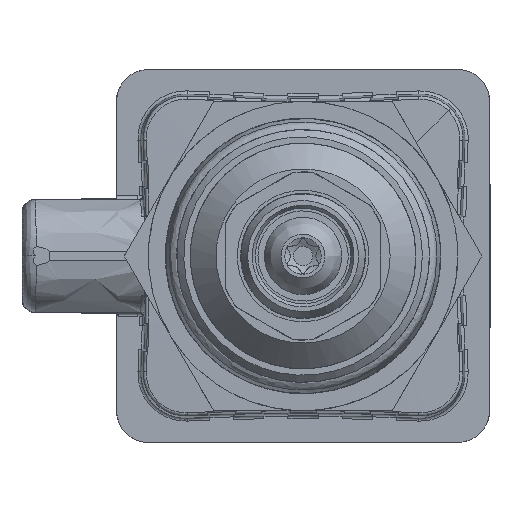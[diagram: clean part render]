
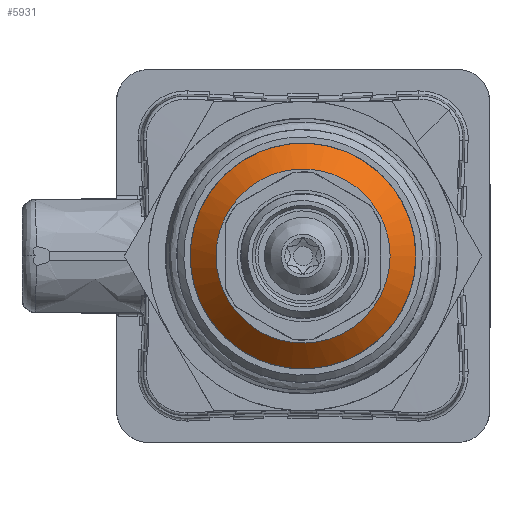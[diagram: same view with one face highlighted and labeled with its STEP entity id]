
A CAD part, front view. The second image highlights one B-rep face of the part: STEP entity #5931.
In plain terms, the highlighted free-form (B-spline) face has degree [2, 1] with [7, 2] control points.
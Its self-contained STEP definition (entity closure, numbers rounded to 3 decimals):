
#5833=CARTESIAN_POINT('V126',(6.75,-29.3,
   0.0));
#5834=VERTEX_POINT('V126',#5833);
#5835=CARTESIAN_POINT('E198',(6.75,-29.3,
   0.0));
#5836=CARTESIAN_POINT('E198',(6.75,-29.3,
   -11.691));
#5837=CARTESIAN_POINT('E198',(-3.375,-29.3,
   -5.846));
#5838=CARTESIAN_POINT('E198',(-13.5,
   -29.3,0.));
#5839=CARTESIAN_POINT('E198',(-3.375,-29.3,
   5.846));
#5840=CARTESIAN_POINT('E198',(6.75,-29.3,
   11.691));
#5841=CARTESIAN_POINT('E198',(6.75,-29.3,
   0.0));
#5849=(BOUNDED_CURVE()B_SPLINE_CURVE(2,(#5835,#5836,#5837,#5838,
   #5839,#5840,#5841),.CIRCULAR_ARC.,.T.,.U.)
   B_SPLINE_CURVE_WITH_KNOTS((3,2,2,3),(0.0,9.492,
   18.984,28.475),.UNSPECIFIED.)CURVE()
   GEOMETRIC_REPRESENTATION_ITEM()RATIONAL_B_SPLINE_CURVE((1.0,
   0.5,1.0,0.5,1.0,0.5,1.0)
   )REPRESENTATION_ITEM('E198'));
#5850=EDGE_CURVE('E198',#5834,#5834,#5849,.T.);
#5881=CARTESIAN_POINT('F85',(6.75,-29.3,
   0.0));
#5882=CARTESIAN_POINT('F85',(6.75,-29.3,
   -11.691));
#5883=CARTESIAN_POINT('F85',(-3.375,-29.3,
   -5.846));
#5884=CARTESIAN_POINT('F85',(-13.5,-29.3,
   0.));
#5885=CARTESIAN_POINT('F85',(-3.375,-29.3,
   5.846));
#5886=CARTESIAN_POINT('F85',(6.75,-29.3,
   11.691));
#5887=CARTESIAN_POINT('F85',(6.75,-29.3,
   0.0));
#5888=CARTESIAN_POINT('F85',(8.75,-27.3,
   0.0));
#5889=CARTESIAN_POINT('F85',(8.75,-27.3,
   -15.155));
#5890=CARTESIAN_POINT('F85',(-4.375,-27.3,
   -7.578));
#5891=CARTESIAN_POINT('F85',(-17.5,-27.3,
   0.));
#5892=CARTESIAN_POINT('F85',(-4.375,-27.3,
   7.578));
#5893=CARTESIAN_POINT('F85',(8.75,-27.3,
   15.155));
#5894=CARTESIAN_POINT('F85',(8.75,-27.3,
   0.0));
#5902=(BOUNDED_SURFACE()B_SPLINE_SURFACE(2,1,((#5881,#5888),(
   #5882,#5889),(#5883,#5890),(#5884,#5891),(#5885,#5892),(
   #5886,#5893),(#5887,#5894)),.CONICAL_SURF.,.T.,.F.,.U.)
   B_SPLINE_SURFACE_WITH_KNOTS((3,2,2,3),(2,2),(0.0,
   9.492,18.984,28.475),(0.0,
   1.0),.UNSPECIFIED.)GEOMETRIC_REPRESENTATION_ITEM()
   RATIONAL_B_SPLINE_SURFACE(((1.0,1.0),(0.5,
   0.5),(1.0,1.0),(0.5,
   0.5),(1.0,1.0),(0.5,
   0.5),(1.0,1.0)))REPRESENTATION_ITEM('F85')SURFACE(
   ));
#5903=CARTESIAN_POINT('V125',(8.75,-27.3,
   0.0));
#5904=VERTEX_POINT('V125',#5903);
#5905=CARTESIAN_POINT('E197',(8.75,-27.3,
   0.0));
#5906=CARTESIAN_POINT('E197',(6.75,-29.3,
   0.0));
#5907=QUASI_UNIFORM_CURVE('E197',1,(#5905,#5906),.POLYLINE_FORM.,.F.,
   .U.);
#5908=EDGE_CURVE('E197',#5904,#5834,#5907,.T.);
#5909=ORIENTED_EDGE('E197',*,*,#5908,.T.);
#5910=ORIENTED_EDGE('F106',*,*,#5850,.T.);
#5911=ORIENTED_EDGE('E197',*,*,#5908,.F.);
#5912=CARTESIAN_POINT('E196',(8.75,-27.3,
   0.0));
#5913=CARTESIAN_POINT('E196',(8.75,-27.3,
   -15.155));
#5914=CARTESIAN_POINT('E196',(-4.375,-27.3,
   -7.578));
#5915=CARTESIAN_POINT('E196',(-17.5,
   -27.3,0.));
#5916=CARTESIAN_POINT('E196',(-4.375,-27.3,
   7.578));
#5917=CARTESIAN_POINT('E196',(8.75,-27.3,
   15.155));
#5918=CARTESIAN_POINT('E196',(8.75,-27.3,
   0.0));
#5926=(BOUNDED_CURVE()B_SPLINE_CURVE(2,(#5912,#5913,#5914,#5915,
   #5916,#5917,#5918),.CIRCULAR_ARC.,.T.,.U.)
   B_SPLINE_CURVE_WITH_KNOTS((3,2,2,3),(0.0,60.622,
   121.244,181.865),.UNSPECIFIED.)CURVE()
   GEOMETRIC_REPRESENTATION_ITEM()RATIONAL_B_SPLINE_CURVE((1.0,
   0.5,1.0,0.5,1.0,0.5,1.0)
   )REPRESENTATION_ITEM('E196'));
#5927=EDGE_CURVE('E196',#5904,#5904,#5926,.T.);
#5928=ORIENTED_EDGE('E196',*,*,#5927,.F.);
#5929=EDGE_LOOP('F85',(#5909,#5910,#5911,#5928));
#5930=FACE_OUTER_BOUND('F85',#5929,.T.);
#5931=ADVANCED_FACE('F85',(#5930),#5902,.T.);
